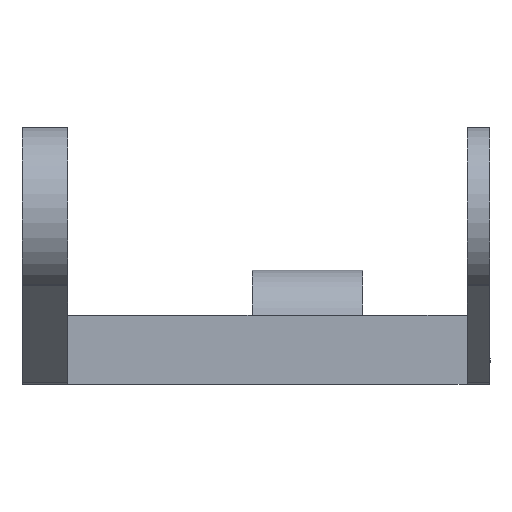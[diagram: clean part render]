
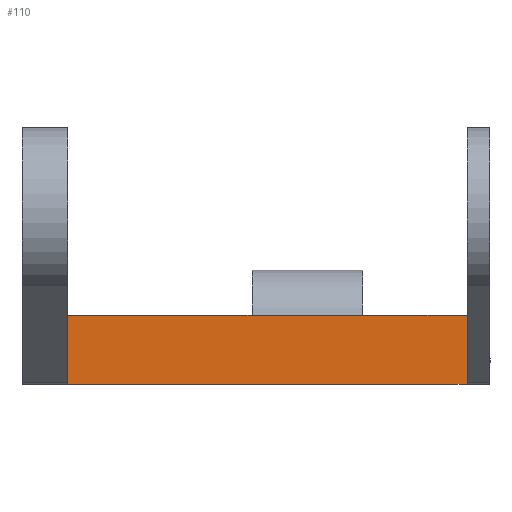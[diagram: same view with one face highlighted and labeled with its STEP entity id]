
A CAD part, left-side view. The second image highlights one B-rep face of the part: STEP entity #110.
In plain terms, the highlighted planar face has unit normal (-1, 0, 0).
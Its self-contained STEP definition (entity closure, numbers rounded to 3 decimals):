
#110=ADVANCED_FACE('',(#207),#1554,.T.);
#207=FACE_OUTER_BOUND('',#309,.T.);
#309=EDGE_LOOP('',(#760,#761,#762,#763,#764,#765,#766,#767,#768));
#760=ORIENTED_EDGE('',*,*,#1045,.F.);
#761=ORIENTED_EDGE('',*,*,#961,.F.);
#762=ORIENTED_EDGE('',*,*,#937,.F.);
#763=ORIENTED_EDGE('',*,*,#960,.F.);
#764=ORIENTED_EDGE('',*,*,#959,.F.);
#765=ORIENTED_EDGE('',*,*,#1041,.F.);
#766=ORIENTED_EDGE('',*,*,#1050,.F.);
#767=ORIENTED_EDGE('',*,*,#979,.F.);
#768=ORIENTED_EDGE('',*,*,#1038,.F.);
#937=EDGE_CURVE('',#1418,#1417,#1272,.T.);
#959=EDGE_CURVE('',#1420,#1419,#1292,.T.);
#960=EDGE_CURVE('',#1419,#1418,#1293,.T.);
#961=EDGE_CURVE('',#1417,#1421,#1294,.T.);
#979=EDGE_CURVE('',#1434,#1433,#1309,.T.);
#1038=EDGE_CURVE('',#1432,#1434,#1326,.T.);
#1041=EDGE_CURVE('',#1431,#1420,#1329,.T.);
#1045=EDGE_CURVE('',#1421,#1432,#1333,.T.);
#1050=EDGE_CURVE('',#1433,#1431,#1336,.T.);
#1272=B_SPLINE_CURVE_WITH_KNOTS('',1,(#2701,#2702),.UNSPECIFIED.,.F.,.F.,
(2,2),(-9.7,0.),.UNSPECIFIED.);
#1292=B_SPLINE_CURVE_WITH_KNOTS('',1,(#2767,#2768),.UNSPECIFIED.,.F.,.F.,
(2,2),(-2.502,0.),.UNSPECIFIED.);
#1293=B_SPLINE_CURVE_WITH_KNOTS('',1,(#2769,#2770),.UNSPECIFIED.,.F.,.F.,
(2,2),(-6.647,0.),.UNSPECIFIED.);
#1294=B_SPLINE_CURVE_WITH_KNOTS('',1,(#2771,#2772),.UNSPECIFIED.,.F.,.F.,
(2,2),(-16.15,0.),.UNSPECIFIED.);
#1309=B_SPLINE_CURVE_WITH_KNOTS('',1,(#2856,#2857),.UNSPECIFIED.,.F.,.F.,
(2,2),(-9.7,0.),.UNSPECIFIED.);
#1326=B_SPLINE_CURVE_WITH_KNOTS('',1,(#3190,#3191),.UNSPECIFIED.,.F.,.F.,
(2,2),(-82.121,-65.97),.UNSPECIFIED.);
#1329=B_SPLINE_CURVE_WITH_KNOTS('',1,(#3196,#3197),.UNSPECIFIED.,.F.,.F.,
(2,2),(-47.121,-41.06),.UNSPECIFIED.);
#1333=B_SPLINE_CURVE_WITH_KNOTS('',1,(#3204,#3205),.UNSPECIFIED.,.F.,.F.,
(2,2),(-6.06,0.),.UNSPECIFIED.);
#1336=B_SPLINE_CURVE_WITH_KNOTS('',1,(#3218,#3219),.UNSPECIFIED.,.F.,.F.,
(2,2),(-56.27,-47.121),.UNSPECIFIED.);
#1417=VERTEX_POINT('',#2287);
#1418=VERTEX_POINT('',#2288);
#1419=VERTEX_POINT('',#2289);
#1420=VERTEX_POINT('',#2290);
#1421=VERTEX_POINT('',#2291);
#1431=VERTEX_POINT('',#2301);
#1432=VERTEX_POINT('',#2302);
#1433=VERTEX_POINT('',#2303);
#1434=VERTEX_POINT('',#2304);
#1554=PLANE('',#1760);
#1760=AXIS2_PLACEMENT_3D('',#2203,#1883,$);
#1883=DIRECTION('',(-1.,0.,0.));
#2203=CARTESIAN_POINT('',(776.474,384.831,60.244));
#2287=CARTESIAN_POINT('',(776.474,408.055,61.002));
#2288=CARTESIAN_POINT('',(776.474,398.355,61.003));
#2289=CARTESIAN_POINT('',(776.474,391.708,61.003));
#2290=CARTESIAN_POINT('',(776.474,389.206,61.003));
#2291=CARTESIAN_POINT('',(776.474,424.206,61.002));
#2301=CARTESIAN_POINT('',(776.475,389.206,67.064));
#2302=CARTESIAN_POINT('',(776.475,424.206,67.062));
#2303=CARTESIAN_POINT('',(776.475,398.356,67.063));
#2304=CARTESIAN_POINT('',(776.475,408.056,67.063));
#2701=CARTESIAN_POINT('',(776.474,398.355,61.003));
#2702=CARTESIAN_POINT('',(776.474,408.055,61.002));
#2767=CARTESIAN_POINT('',(776.474,389.206,61.003));
#2768=CARTESIAN_POINT('',(776.474,391.708,61.003));
#2769=CARTESIAN_POINT('',(776.474,391.708,61.003));
#2770=CARTESIAN_POINT('',(776.474,398.355,61.003));
#2771=CARTESIAN_POINT('',(776.474,408.055,61.002));
#2772=CARTESIAN_POINT('',(776.474,424.206,61.002));
#2856=CARTESIAN_POINT('',(776.475,408.056,67.063));
#2857=CARTESIAN_POINT('',(776.475,398.356,67.063));
#3190=CARTESIAN_POINT('',(776.475,424.206,67.062));
#3191=CARTESIAN_POINT('',(776.475,408.056,67.063));
#3196=CARTESIAN_POINT('',(776.475,389.206,67.064));
#3197=CARTESIAN_POINT('',(776.474,389.206,61.003));
#3204=CARTESIAN_POINT('',(776.474,424.206,61.002));
#3205=CARTESIAN_POINT('',(776.475,424.206,67.062));
#3218=CARTESIAN_POINT('',(776.475,398.356,67.063));
#3219=CARTESIAN_POINT('',(776.475,389.206,67.064));
